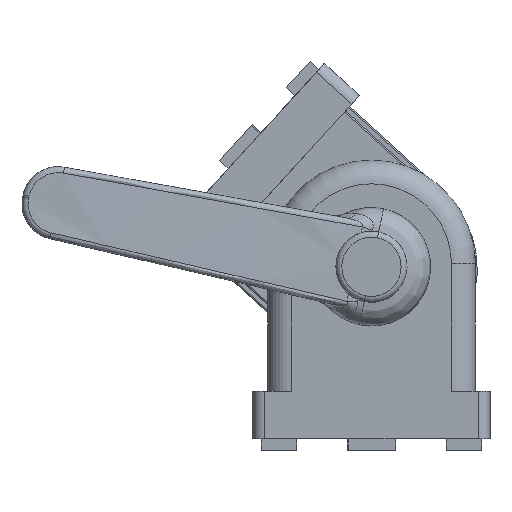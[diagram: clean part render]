
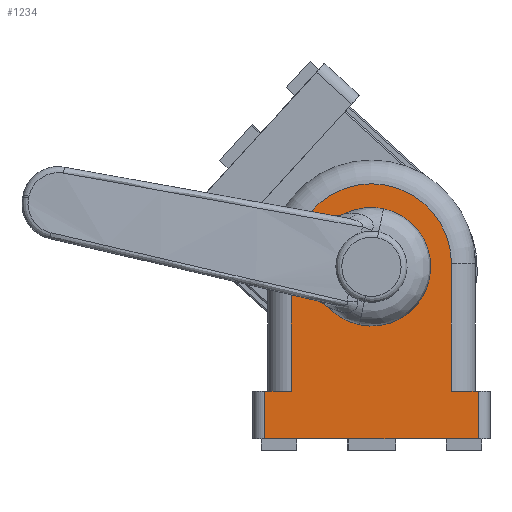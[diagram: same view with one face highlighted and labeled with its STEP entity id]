
A CAD part, left-side view. The second image highlights one B-rep face of the part: STEP entity #1234.
In plain terms, the highlighted planar face has unit normal (-1, 0, 0).
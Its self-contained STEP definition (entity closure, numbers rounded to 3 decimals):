
#339=CARTESIAN_POINT('',(0.0,2.,-8.0));
#340=VERTEX_POINT('',#339);
#348=CARTESIAN_POINT('',(0.0,38.0,-8.0));
#349=VERTEX_POINT('',#348);
#350=CARTESIAN_POINT('',(0.0,38.0,-8.0));
#351=DIRECTION('',(0.0,-1.0,0.0));
#352=VECTOR('',#351,36.0);
#353=LINE('',#350,#352);
#354=EDGE_CURVE('',#349,#340,#353,.T.);
#1141=CARTESIAN_POINT('',(0.0,38.0,0.0));
#1142=VERTEX_POINT('',#1141);
#1143=CARTESIAN_POINT('',(0.0,38.0,-8.0));
#1144=DIRECTION('',(0.0,0.0,1.0));
#1145=VECTOR('',#1144,8.0);
#1146=LINE('',#1143,#1145);
#1147=EDGE_CURVE('',#349,#1142,#1146,.T.);
#1167=CARTESIAN_POINT('',(0.0,40.0,0.0));
#1168=DIRECTION('',(-1.0,0.0,0.0));
#1169=DIRECTION('',(0.0,0.0,1.0));
#1170=AXIS2_PLACEMENT_3D('',#1167,#1168,#1169);
#1171=PLANE('',#1170);
#1172=ORIENTED_EDGE('',*,*,#1147,.F.);
#1173=ORIENTED_EDGE('',*,*,#354,.T.);
#1174=CARTESIAN_POINT('',(0.0,2.,0.0));
#1175=VERTEX_POINT('',#1174);
#1176=CARTESIAN_POINT('',(0.0,2.,0.0));
#1177=DIRECTION('',(0.0,0.0,-1.0));
#1178=VECTOR('',#1177,8.0);
#1179=LINE('',#1176,#1178);
#1180=EDGE_CURVE('',#1175,#340,#1179,.T.);
#1181=ORIENTED_EDGE('',*,*,#1180,.F.);
#1182=CARTESIAN_POINT('',(0.0,6.5,0.0));
#1183=VERTEX_POINT('',#1182);
#1184=CARTESIAN_POINT('',(0.0,6.5,0.0));
#1185=DIRECTION('',(0.0,-1.0,0.0));
#1186=VECTOR('',#1185,4.5);
#1187=LINE('',#1184,#1186);
#1188=EDGE_CURVE('',#1183,#1175,#1187,.T.);
#1189=ORIENTED_EDGE('',*,*,#1188,.F.);
#1190=CARTESIAN_POINT('',(0.0,6.5,21.5));
#1191=VERTEX_POINT('',#1190);
#1192=CARTESIAN_POINT('',(0.0,6.5,21.5));
#1193=DIRECTION('',(0.0,0.0,-1.0));
#1194=VECTOR('',#1193,21.5);
#1195=LINE('',#1192,#1194);
#1196=EDGE_CURVE('',#1191,#1183,#1195,.T.);
#1197=ORIENTED_EDGE('',*,*,#1196,.F.);
#1198=CARTESIAN_POINT('',(0.0,33.5,21.5));
#1199=VERTEX_POINT('',#1198);
#1200=CARTESIAN_POINT('',(0.0,20.0,21.5));
#1201=DIRECTION('',(1.0,0.0,0.0));
#1202=DIRECTION('',(0.0,0.0,1.0));
#1203=AXIS2_PLACEMENT_3D('',#1200,#1201,#1202);
#1204=CIRCLE('',#1203,13.5);
#1205=EDGE_CURVE('',#1199,#1191,#1204,.T.);
#1206=ORIENTED_EDGE('',*,*,#1205,.F.);
#1207=CARTESIAN_POINT('',(0.0,33.5,0.0));
#1208=VERTEX_POINT('',#1207);
#1209=CARTESIAN_POINT('',(0.0,33.5,0.0));
#1210=DIRECTION('',(0.0,0.0,1.0));
#1211=VECTOR('',#1210,21.5);
#1212=LINE('',#1209,#1211);
#1213=EDGE_CURVE('',#1208,#1199,#1212,.T.);
#1214=ORIENTED_EDGE('',*,*,#1213,.F.);
#1215=CARTESIAN_POINT('',(0.0,38.0,0.0));
#1216=DIRECTION('',(0.0,-1.0,0.0));
#1217=VECTOR('',#1216,4.5);
#1218=LINE('',#1215,#1217);
#1219=EDGE_CURVE('',#1142,#1208,#1218,.T.);
#1220=ORIENTED_EDGE('',*,*,#1219,.F.);
#1221=EDGE_LOOP('',(#1172,#1173,#1181,#1189,#1197,#1206,#1214,#1220));
#1222=FACE_OUTER_BOUND('',#1221,.T.);
#1223=CARTESIAN_POINT('',(0.0,11.375,16.02));
#1224=VERTEX_POINT('',#1223);
#1225=CARTESIAN_POINT('',(0.0,20.0,21.));
#1226=DIRECTION('',(1.0,0.0,0.0));
#1227=DIRECTION('',(0.0,0.0,-1.0));
#1228=AXIS2_PLACEMENT_3D('',#1225,#1226,#1227);
#1229=CIRCLE('',#1228,9.959);
#1230=EDGE_CURVE('',#1224,#1224,#1229,.T.);
#1231=ORIENTED_EDGE('',*,*,#1230,.T.);
#1232=EDGE_LOOP('',(#1231));
#1233=FACE_BOUND('',#1232,.T.);
#1234=ADVANCED_FACE('',(#1222,#1233),#1171,.T.);
